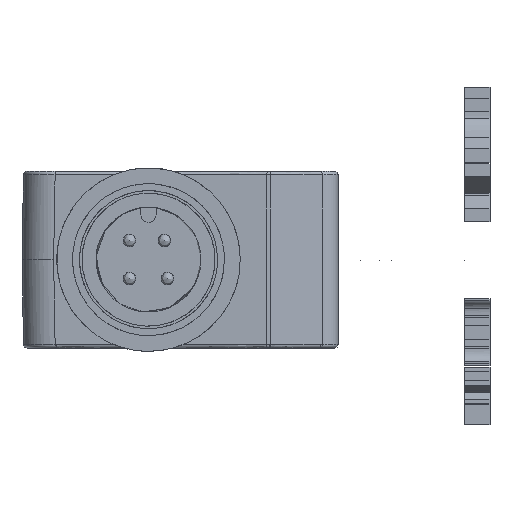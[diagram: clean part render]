
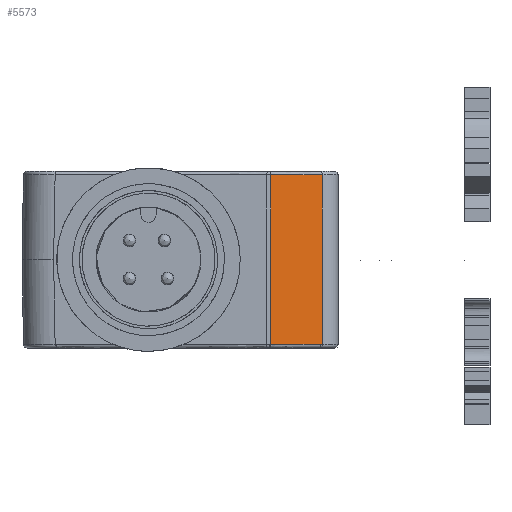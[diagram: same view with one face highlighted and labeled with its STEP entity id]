
A CAD part, front view. The second image highlights one B-rep face of the part: STEP entity #5573.
In plain terms, the highlighted free-form (B-spline) face has degree [1, 1] with [2, 2] control points.
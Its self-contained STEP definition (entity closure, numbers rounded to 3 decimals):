
#769=B_SPLINE_CURVE_WITH_KNOTS('',1,(#24119,#24120),.UNSPECIFIED.,.F.,.F.,
(2,2),(0.,1.),.UNSPECIFIED.);
#5573=ADVANCED_FACE('',(#6302),#5839,.T.);
#5839=B_SPLINE_SURFACE_WITH_KNOTS('',1,1,((#24121,#24122),(#24123,#24124)),
 .UNSPECIFIED.,.F.,.F.,.F.,(2,2),(2,2),(0.,1.),(0.,1.),.UNSPECIFIED.);
#6302=FACE_OUTER_BOUND('',#6868,.T.);
#6868=EDGE_LOOP('',(#9268,#9269,#9270,#9271));
#9268=ORIENTED_EDGE('',*,*,#11341,.F.);
#9269=ORIENTED_EDGE('',*,*,#11447,.T.);
#9270=ORIENTED_EDGE('',*,*,#11387,.F.);
#9271=ORIENTED_EDGE('',*,*,#11336,.F.);
#10148=VERTEX_POINT('',#23190);
#10149=VERTEX_POINT('',#23194);
#10153=VERTEX_POINT('',#23229);
#10180=VERTEX_POINT('',#23709);
#11336=EDGE_CURVE('',#10149,#10148,#11915,.T.);
#11341=EDGE_CURVE('',#10153,#10149,#11918,.T.);
#11387=EDGE_CURVE('',#10148,#10180,#11962,.T.);
#11447=EDGE_CURVE('',#10153,#10180,#769,.T.);
#11915=(
BOUNDED_CURVE()
B_SPLINE_CURVE(1,(#23195,#23196),.UNSPECIFIED.,.F.,.F.)
B_SPLINE_CURVE_WITH_KNOTS((2,2),(0.,1.),.UNSPECIFIED.)
CURVE()
GEOMETRIC_REPRESENTATION_ITEM()
RATIONAL_B_SPLINE_CURVE((1.,1.))
REPRESENTATION_ITEM('')
);
#11918=(
BOUNDED_CURVE()
B_SPLINE_CURVE(1,(#23230,#23231),.UNSPECIFIED.,.F.,.F.)
B_SPLINE_CURVE_WITH_KNOTS((2,2),(0.,1.),.UNSPECIFIED.)
CURVE()
GEOMETRIC_REPRESENTATION_ITEM()
RATIONAL_B_SPLINE_CURVE((1.,1.))
REPRESENTATION_ITEM('')
);
#11962=(
BOUNDED_CURVE()
B_SPLINE_CURVE(1,(#23707,#23708),.UNSPECIFIED.,.F.,.F.)
B_SPLINE_CURVE_WITH_KNOTS((2,2),(0.,1.),.UNSPECIFIED.)
CURVE()
GEOMETRIC_REPRESENTATION_ITEM()
RATIONAL_B_SPLINE_CURVE((1.,1.))
REPRESENTATION_ITEM('')
);
#23190=CARTESIAN_POINT('',(-8.065,36.63,-6.99));
#23194=CARTESIAN_POINT('',(-8.065,36.63,6.41));
#23195=CARTESIAN_POINT('',(-8.065,36.63,6.41));
#23196=CARTESIAN_POINT('',(-8.065,36.63,-6.99));
#23229=CARTESIAN_POINT('',(-12.127,36.002,6.41));
#23230=CARTESIAN_POINT('',(-12.127,36.002,6.41));
#23231=CARTESIAN_POINT('',(-8.065,36.63,6.41));
#23707=CARTESIAN_POINT('',(-8.065,36.63,-6.99));
#23708=CARTESIAN_POINT('',(-12.127,36.002,-6.99));
#23709=CARTESIAN_POINT('',(-12.127,36.002,-6.99));
#24119=CARTESIAN_POINT('',(-12.127,36.002,6.41));
#24120=CARTESIAN_POINT('',(-12.127,36.002,-6.99));
#24121=CARTESIAN_POINT('',(-12.294,35.977,-7.29));
#24122=CARTESIAN_POINT('',(-12.294,35.977,7.431));
#24123=CARTESIAN_POINT('',(-6.794,36.827,-7.29));
#24124=CARTESIAN_POINT('',(-6.794,36.827,7.431));
